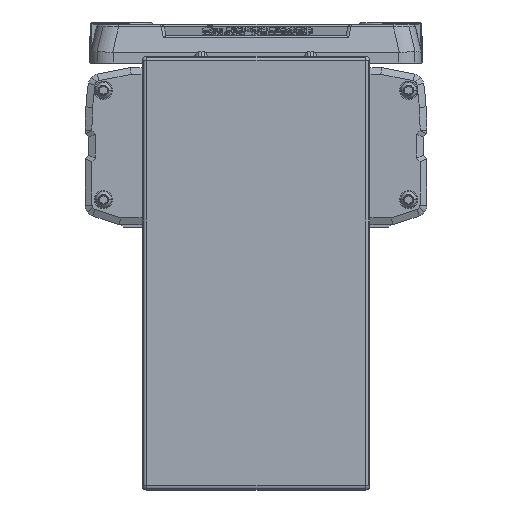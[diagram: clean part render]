
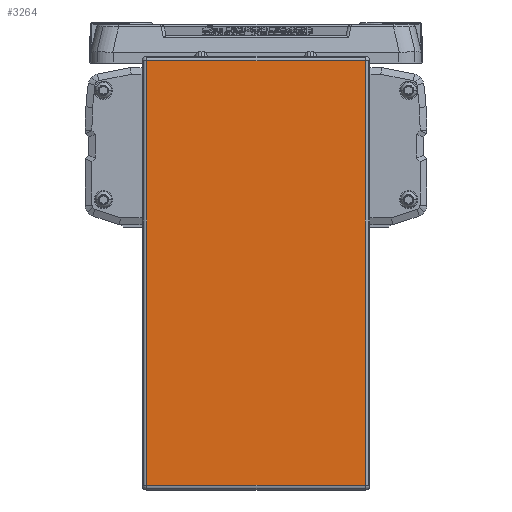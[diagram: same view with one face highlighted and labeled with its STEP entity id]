
A CAD part, left-side view. The second image highlights one B-rep face of the part: STEP entity #3264.
In plain terms, the highlighted planar face has unit normal (-1, 0, 0).
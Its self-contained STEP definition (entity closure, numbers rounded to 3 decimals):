
#3264=ADVANCED_FACE('',(#8045),#8046,.T.);
#8045=FACE_OUTER_BOUND('',#15234,.T.);
#8046=PLANE('',#15235);
#15234=EDGE_LOOP('',(#25004,#25005,#25006,#25007));
#15235=AXIS2_PLACEMENT_3D('',#25008,#25009,#25010);
#25004=ORIENTED_EDGE('',*,*,#42272,.F.);
#25005=ORIENTED_EDGE('',*,*,#42273,.F.);
#25006=ORIENTED_EDGE('',*,*,#42274,.F.);
#25007=ORIENTED_EDGE('',*,*,#42275,.F.);
#25008=CARTESIAN_POINT('',(-45.,0.,-64.2));
#25009=DIRECTION('',(-1.0,0.,0.));
#25010=DIRECTION('',(0.,1.0,0.));
#42272=EDGE_CURVE('',#51209,#51210,#51211,.T.);
#42273=EDGE_CURVE('',#51212,#51209,#51213,.T.);
#42274=EDGE_CURVE('',#51214,#51212,#51215,.T.);
#42275=EDGE_CURVE('',#51210,#51214,#51216,.T.);
#51209=VERTEX_POINT('',#63449);
#51210=VERTEX_POINT('',#63450);
#51211=LINE('',#63451,#63452);
#51212=VERTEX_POINT('',#63453);
#51213=LINE('',#63454,#63455);
#51214=VERTEX_POINT('',#63456);
#51215=LINE('',#63457,#63458);
#51216=LINE('',#63459,#63460);
#63449=CARTESIAN_POINT('',(-45.,48.,29.));
#63450=CARTESIAN_POINT('',(-45.,-48.,29.));
#63451=CARTESIAN_POINT('',(-45.,0.,29.));
#63452=VECTOR('',#76248,10.0);
#63453=CARTESIAN_POINT('',(-45.,48.,-157.4));
#63454=CARTESIAN_POINT('',(-45.,48.,-64.2));
#63455=VECTOR('',#76249,10.0);
#63456=CARTESIAN_POINT('',(-45.,-48.,-157.4));
#63457=CARTESIAN_POINT('',(-45.,0.,-157.4));
#63458=VECTOR('',#76250,10.0);
#63459=CARTESIAN_POINT('',(-45.,-48.,-64.2));
#63460=VECTOR('',#76251,10.0);
#76248=DIRECTION('',(0.0,-1.0,0.));
#76249=DIRECTION('',(0.,0.,1.0));
#76250=DIRECTION('',(0.0,1.0,0.));
#76251=DIRECTION('',(0.,0.,-1.0));
